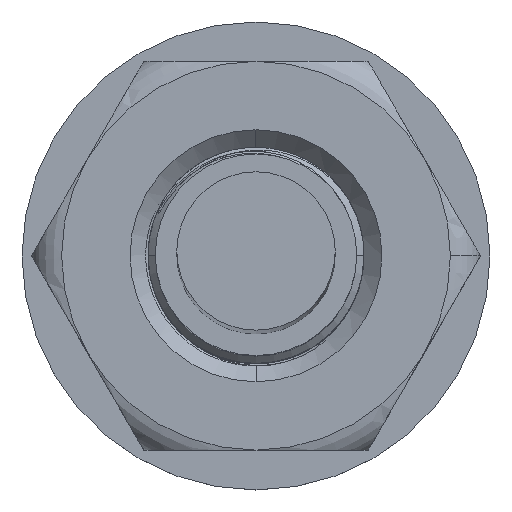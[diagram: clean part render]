
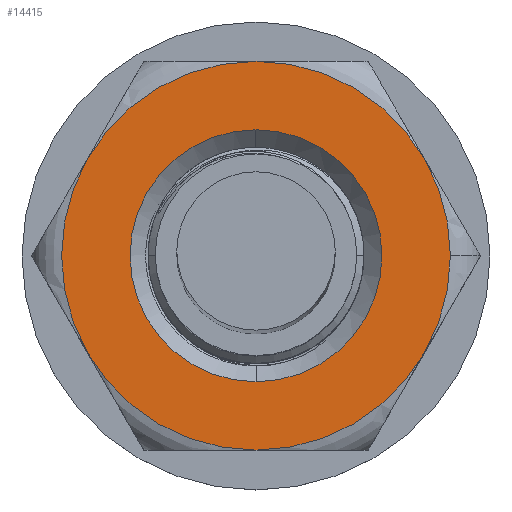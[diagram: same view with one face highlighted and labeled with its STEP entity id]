
A CAD part, top view. The second image highlights one B-rep face of the part: STEP entity #14415.
In plain terms, the highlighted planar face has unit normal (0, 0, 1) as drawn and (0, -1, 0) by its records, which use the part's own axes.
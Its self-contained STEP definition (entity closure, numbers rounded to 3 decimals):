
#479 = CARTESIAN_POINT ( 'NONE',  ( 2.338, -1., 1.35 ) ) ;
#484 = DIRECTION ( 'NONE',  ( 0., 0., 1. ) ) ;
#590 = DIRECTION ( 'NONE',  ( 0., 1., 0. ) ) ;
#671 = CARTESIAN_POINT ( 'NONE',  ( 0., -1., 0. ) ) ;
#1437 = EDGE_CURVE ( 'NONE', #12881, #12210, #4961, .T. ) ;
#1911 = DIRECTION ( 'NONE',  ( 0., 1., 0. ) ) ;
#1946 = AXIS2_PLACEMENT_3D ( 'NONE', #6398, #13988, #10317 ) ;
#2475 = CARTESIAN_POINT ( 'NONE',  ( 0., -1., 1.75 ) ) ;
#2572 = EDGE_CURVE ( 'NONE', #3271, #16619, #4410, .T. ) ;
#2662 = DIRECTION ( 'NONE',  ( 0., 0., 1. ) ) ;
#3052 = CARTESIAN_POINT ( 'NONE',  ( 0., -1., 0. ) ) ;
#3125 = DIRECTION ( 'NONE',  ( 0., -1., 0. ) ) ;
#3238 = FACE_OUTER_BOUND ( 'NONE', #3803, .T. ) ;
#3271 = VERTEX_POINT ( 'NONE', #479 ) ;
#3457 = ORIENTED_EDGE ( 'NONE', *, *, #15701, .T. ) ;
#3733 = EDGE_CURVE ( 'NONE', #10148, #12881, #6344, .T. ) ;
#3803 = EDGE_LOOP ( 'NONE', ( #15876, #14837, #7907, #5190, #4502, #7386, #12425 ) ) ;
#4292 = CIRCLE ( 'NONE', #6781, 2.7 ) ;
#4410 = CIRCLE ( 'NONE', #5524, 2.7 ) ;
#4502 = ORIENTED_EDGE ( 'NONE', *, *, #1437, .F. ) ;
#4851 = CIRCLE ( 'NONE', #7044, 2.7 ) ;
#4961 = CIRCLE ( 'NONE', #14504, 2.7 ) ;
#5180 = CARTESIAN_POINT ( 'NONE',  ( 0., -1., 2.7 ) ) ;
#5190 = ORIENTED_EDGE ( 'NONE', *, *, #16725, .F. ) ;
#5259 = EDGE_CURVE ( 'NONE', #9884, #13205, #9512, .T. ) ;
#5524 = AXIS2_PLACEMENT_3D ( 'NONE', #14930, #3125, #5797 ) ;
#5746 = VERTEX_POINT ( 'NONE', #2475 ) ;
#5797 = DIRECTION ( 'NONE',  ( 1., 0., 0. ) ) ;
#6208 = ORIENTED_EDGE ( 'NONE', *, *, #9692, .T. ) ;
#6344 = CIRCLE ( 'NONE', #1946, 2.7 ) ;
#6398 = CARTESIAN_POINT ( 'NONE',  ( 0., -1., 0. ) ) ;
#6781 = AXIS2_PLACEMENT_3D ( 'NONE', #14911, #1911, #7149 ) ;
#6952 = DIRECTION ( 'NONE',  ( 0., 1., 0. ) ) ;
#7044 = AXIS2_PLACEMENT_3D ( 'NONE', #9180, #12953, #14147 ) ;
#7149 = DIRECTION ( 'NONE',  ( 0., 0., 1. ) ) ;
#7192 = PLANE ( 'NONE',  #15484 ) ;
#7232 = CARTESIAN_POINT ( 'NONE',  ( 2.7, -1., 0. ) ) ;
#7287 = DIRECTION ( 'NONE',  ( 0., 0., 1. ) ) ;
#7386 = ORIENTED_EDGE ( 'NONE', *, *, #3733, .F. ) ;
#7496 = CARTESIAN_POINT ( 'NONE',  ( -2.338, -1., -1.35 ) ) ;
#7814 = CARTESIAN_POINT ( 'NONE',  ( -2.338, -1., 1.35 ) ) ;
#7839 = AXIS2_PLACEMENT_3D ( 'NONE', #3052, #8279, #484 ) ;
#7901 = CARTESIAN_POINT ( 'NONE',  ( 0., -1., 0. ) ) ;
#7907 = ORIENTED_EDGE ( 'NONE', *, *, #5259, .F. ) ;
#8182 = EDGE_LOOP ( 'NONE', ( #3457, #6208 ) ) ;
#8279 = DIRECTION ( 'NONE',  ( 0., 1., 0. ) ) ;
#9043 = CARTESIAN_POINT ( 'NONE',  ( 0., -1., -2.7 ) ) ;
#9180 = CARTESIAN_POINT ( 'NONE',  ( 0., -1., 0. ) ) ;
#9512 = CIRCLE ( 'NONE', #11702, 2.7 ) ;
#9692 = EDGE_CURVE ( 'NONE', #5746, #15442, #15775, .T. ) ;
#9884 = VERTEX_POINT ( 'NONE', #7496 ) ;
#10014 = DIRECTION ( 'NONE',  ( 0., 1., 0. ) ) ;
#10148 = VERTEX_POINT ( 'NONE', #7232 ) ;
#10258 = EDGE_CURVE ( 'NONE', #13205, #16619, #4292, .T. ) ;
#10292 = CIRCLE ( 'NONE', #7839, 2.7 ) ;
#10317 = DIRECTION ( 'NONE',  ( 0., 0., 1. ) ) ;
#10741 = CARTESIAN_POINT ( 'NONE',  ( 2.338, -1., -1.35 ) ) ;
#11537 = DIRECTION ( 'NONE',  ( 0., 0., 1. ) ) ;
#11702 = AXIS2_PLACEMENT_3D ( 'NONE', #14713, #6952, #2662 ) ;
#11737 = CARTESIAN_POINT ( 'NONE',  ( 0., -1., -1.75 ) ) ;
#12210 = VERTEX_POINT ( 'NONE', #9043 ) ;
#12211 = AXIS2_PLACEMENT_3D ( 'NONE', #14980, #15144, #13603 ) ;
#12425 = ORIENTED_EDGE ( 'NONE', *, *, #14928, .F. ) ;
#12768 = CIRCLE ( 'NONE', #12211, 1.75 ) ;
#12881 = VERTEX_POINT ( 'NONE', #10741 ) ;
#12953 = DIRECTION ( 'NONE',  ( 0., 1., 0. ) ) ;
#13205 = VERTEX_POINT ( 'NONE', #7814 ) ;
#13603 = DIRECTION ( 'NONE',  ( 0., 0., 1. ) ) ;
#13754 = FACE_BOUND ( 'NONE', #8182, .T. ) ;
#13986 = DIRECTION ( 'NONE',  ( 0., 0., 1. ) ) ;
#13988 = DIRECTION ( 'NONE',  ( 0., 1., 0. ) ) ;
#14147 = DIRECTION ( 'NONE',  ( 0., 0., 1. ) ) ;
#14415 = ADVANCED_FACE ( 'NONE', ( #13754, #3238 ), #7192, .F. ) ;
#14504 = AXIS2_PLACEMENT_3D ( 'NONE', #15316, #10014, #7287 ) ;
#14713 = CARTESIAN_POINT ( 'NONE',  ( 0., -1., 0. ) ) ;
#14837 = ORIENTED_EDGE ( 'NONE', *, *, #10258, .F. ) ;
#14911 = CARTESIAN_POINT ( 'NONE',  ( 0., -1., 0. ) ) ;
#14928 = EDGE_CURVE ( 'NONE', #3271, #10148, #10292, .T. ) ;
#14930 = CARTESIAN_POINT ( 'NONE',  ( 0., -1., 0. ) ) ;
#14980 = CARTESIAN_POINT ( 'NONE',  ( 0., -1., 0. ) ) ;
#15144 = DIRECTION ( 'NONE',  ( 0., 1., 0. ) ) ;
#15316 = CARTESIAN_POINT ( 'NONE',  ( 0., -1., 0. ) ) ;
#15362 = DIRECTION ( 'NONE',  ( 0., 1., 0. ) ) ;
#15442 = VERTEX_POINT ( 'NONE', #11737 ) ;
#15484 = AXIS2_PLACEMENT_3D ( 'NONE', #671, #590, #11537 ) ;
#15499 = AXIS2_PLACEMENT_3D ( 'NONE', #7901, #15362, #13986 ) ;
#15701 = EDGE_CURVE ( 'NONE', #15442, #5746, #12768, .T. ) ;
#15775 = CIRCLE ( 'NONE', #15499, 1.75 ) ;
#15876 = ORIENTED_EDGE ( 'NONE', *, *, #2572, .T. ) ;
#16619 = VERTEX_POINT ( 'NONE', #5180 ) ;
#16725 = EDGE_CURVE ( 'NONE', #12210, #9884, #4851, .T. ) ;
